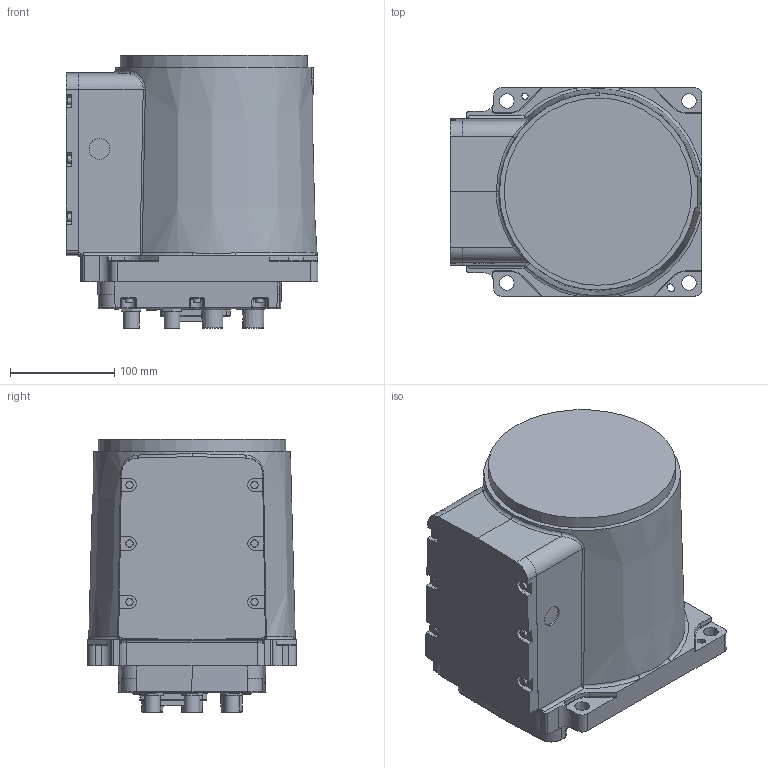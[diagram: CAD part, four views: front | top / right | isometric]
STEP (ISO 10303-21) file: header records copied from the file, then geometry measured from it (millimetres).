
FILE_DESCRIPTION (( 'STEP AP203' ), '1' );
FILE_NAME ('IRB1200GEN2_5kg-910_BTM_OC_00_Base_CAD.STEP', '2025-06-16T02:13:39', ( '' ), ( '' ), 'SwSTEP 2.0', 'SolidWorks 2022', '' );
FILE_SCHEMA (( 'CONFIG_CONTROL_DESIGN' ));
Length unit declared in the file: millimetre
Products named in the file (1): IRB1200GEN2_5kg-910_BTM_OC_00_Base_CAD
Bounding box: 242 x 200 x 262.3 mm (x, y, z)
Volume: 8679097.3 mm3; surface area: 284684.9 mm2
Topology: 1 solids, 1 shells, 1076 faces, 2668 edges, 1677 vertices
Faces by surface type: plane 478, bspline 252, cylinder 208, torus 80, cone 32, sphere 26
Full cylindrical faces by diameter (mm): 6 x1, 7 x12, 9.9 x1, 14 x4, 15 x4, 18 x1, 20 x1, 180 x1
Entity records: 41788 total; most frequent: CARTESIAN_POINT 18139, ORIENTED_EDGE 5180, DIRECTION 4269, EDGE_CURVE 2590, VERTEX_POINT 1650, LINE 1509, VECTOR 1509, AXIS2_PLACEMENT_3D 1380
